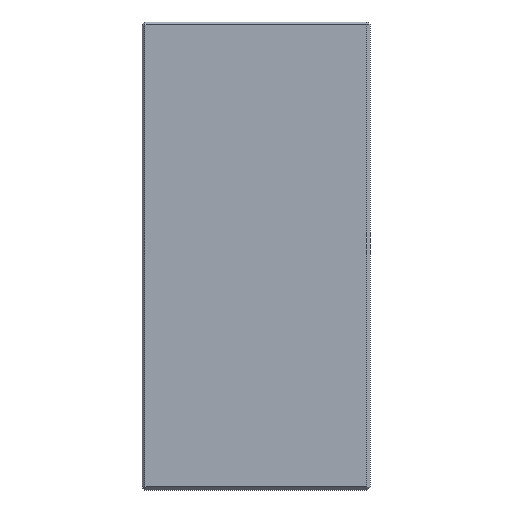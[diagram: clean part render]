
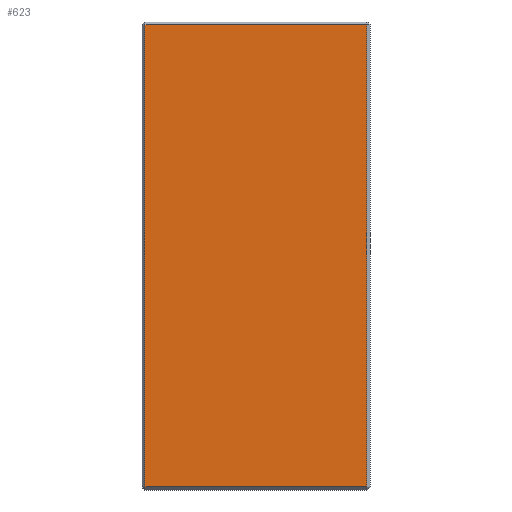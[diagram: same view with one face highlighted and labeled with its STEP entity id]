
A CAD part, left-side view. The second image highlights one B-rep face of the part: STEP entity #623.
In plain terms, the highlighted planar face has unit normal (-1, 0, 0).
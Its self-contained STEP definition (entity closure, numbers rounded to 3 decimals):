
#50 = VERTEX_POINT ( 'NONE', #256 ) ;
#54 = AXIS2_PLACEMENT_3D ( 'NONE', #329, #279, #597 ) ;
#62 = EDGE_LOOP ( 'NONE', ( #363, #473, #439, #404 ) ) ;
#100 = CARTESIAN_POINT ( 'NONE',  ( -16., 1., 78. ) ) ;
#108 = LINE ( 'NONE', #100, #206 ) ;
#120 = CARTESIAN_POINT ( 'NONE',  ( -16., 75., -78. ) ) ;
#122 = DIRECTION ( 'NONE',  ( 0., 0., -1. ) ) ;
#140 = PLANE ( 'NONE',  #54 ) ;
#145 = VERTEX_POINT ( 'NONE', #629 ) ;
#159 = CARTESIAN_POINT ( 'NONE',  ( -16., 76., -77. ) ) ;
#172 = VERTEX_POINT ( 'NONE', #582 ) ;
#174 = VECTOR ( 'NONE', #561, 1000. ) ;
#206 = VECTOR ( 'NONE', #295, 1000. ) ;
#256 = CARTESIAN_POINT ( 'NONE',  ( -16., 75., 77. ) ) ;
#279 = DIRECTION ( 'NONE',  ( 1., 0., 0. ) ) ;
#295 = DIRECTION ( 'NONE',  ( 0., 0., 1. ) ) ;
#329 = CARTESIAN_POINT ( 'NONE',  ( -16., 76., 78. ) ) ;
#342 = VECTOR ( 'NONE', #122, 1000. ) ;
#363 = ORIENTED_EDGE ( 'NONE', *, *, #555, .T. ) ;
#381 = EDGE_CURVE ( 'NONE', #50, #145, #537, .T. ) ;
#390 = CARTESIAN_POINT ( 'NONE',  ( -16., 76., 77. ) ) ;
#400 = EDGE_CURVE ( 'NONE', #435, #172, #108, .T. ) ;
#404 = ORIENTED_EDGE ( 'NONE', *, *, #381, .T. ) ;
#435 = VERTEX_POINT ( 'NONE', #557 ) ;
#438 = VECTOR ( 'NONE', #619, 1000. ) ;
#439 = ORIENTED_EDGE ( 'NONE', *, *, #449, .T. ) ;
#449 = EDGE_CURVE ( 'NONE', #172, #50, #581, .T. ) ;
#458 = LINE ( 'NONE', #159, #438 ) ;
#473 = ORIENTED_EDGE ( 'NONE', *, *, #400, .T. ) ;
#494 = FACE_OUTER_BOUND ( 'NONE', #62, .T. ) ;
#537 = LINE ( 'NONE', #120, #342 ) ;
#555 = EDGE_CURVE ( 'NONE', #145, #435, #458, .T. ) ;
#557 = CARTESIAN_POINT ( 'NONE',  ( -16., 1., -77. ) ) ;
#561 = DIRECTION ( 'NONE',  ( 0., 1., 0. ) ) ;
#581 = LINE ( 'NONE', #390, #174 ) ;
#582 = CARTESIAN_POINT ( 'NONE',  ( -16., 1., 77. ) ) ;
#597 = DIRECTION ( 'NONE',  ( 0., 0., -1. ) ) ;
#619 = DIRECTION ( 'NONE',  ( 0., -1., 0. ) ) ;
#623 = ADVANCED_FACE ( 'NONE', ( #494 ), #140, .F. ) ;
#629 = CARTESIAN_POINT ( 'NONE',  ( -16., 75., -77. ) ) ;
